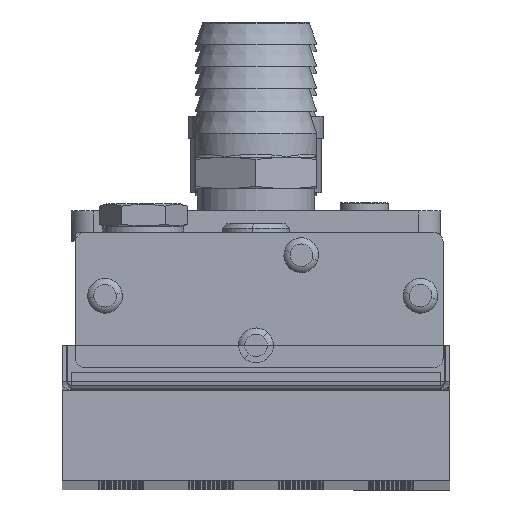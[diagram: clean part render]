
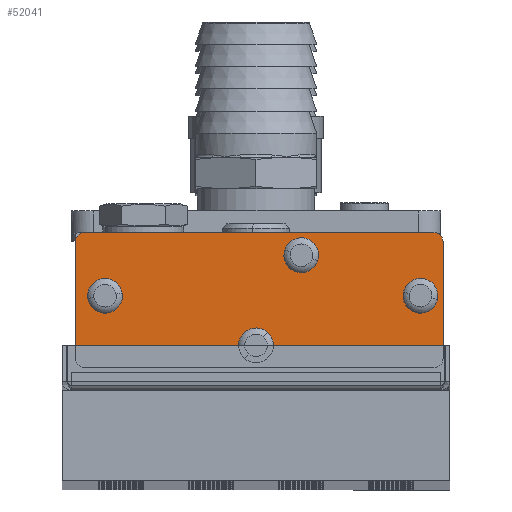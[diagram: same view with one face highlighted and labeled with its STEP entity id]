
A CAD part, top view. The second image highlights one B-rep face of the part: STEP entity #52041.
In plain terms, the highlighted planar face has unit normal (0, 0, 1).
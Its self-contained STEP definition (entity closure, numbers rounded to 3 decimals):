
#819 = AXIS2_PLACEMENT_3D ( 'NONE', #46645, #46647, #46649 ) ;
#1550 = EDGE_CURVE ( 'NONE', #4921, #4905, #29997, .T. ) ;
#1552 = EDGE_CURVE ( 'NONE', #4863, #5088, #30331, .T. ) ;
#1556 = EDGE_CURVE ( 'NONE', #4511, #4863, #30322, .T. ) ;
#1574 = EDGE_CURVE ( 'NONE', #5095, #4511, #30049, .T. ) ;
#1580 = EDGE_CURVE ( 'NONE', #4609, #5095, #30105, .T. ) ;
#1633 = EDGE_CURVE ( 'NONE', #4528, #4609, #30132, .T. ) ;
#1635 = EDGE_CURVE ( 'NONE', #4527, #4528, #30009, .T. ) ;
#1639 = EDGE_CURVE ( 'NONE', #5087, #4527, #30211, .T. ) ;
#1743 = EDGE_CURVE ( 'NONE', #4887, #4512, #46044, .T. ) ;
#1745 = EDGE_CURVE ( 'NONE', #4897, #4589, #46149, .T. ) ;
#2590 = AXIS2_PLACEMENT_3D ( 'NONE', #10534, #9691, #10472 ) ;
#2592 = AXIS2_PLACEMENT_3D ( 'NONE', #10456, #10396, #9739 ) ;
#2598 = AXIS2_PLACEMENT_3D ( 'NONE', #42432, #42431, #42429 ) ;
#2606 = AXIS2_PLACEMENT_3D ( 'NONE', #42380, #42354, #42379 ) ;
#2650 = AXIS2_PLACEMENT_3D ( 'NONE', #42524, #42641, #42699 ) ;
#2652 = AXIS2_PLACEMENT_3D ( 'NONE', #42536, #42630, #42596 ) ;
#4487 = ORIENTED_EDGE ( 'NONE', *, *, #1635, .T. ) ;
#4493 = ORIENTED_EDGE ( 'NONE', *, *, #1745, .T. ) ;
#4511 = VERTEX_POINT ( 'NONE', #44627 ) ;
#4512 = VERTEX_POINT ( 'NONE', #44626 ) ;
#4522 = ORIENTED_EDGE ( 'NONE', *, *, #51363, .T. ) ;
#4527 = VERTEX_POINT ( 'NONE', #44625 ) ;
#4528 = VERTEX_POINT ( 'NONE', #44629 ) ;
#4535 = ORIENTED_EDGE ( 'NONE', *, *, #1580, .T. ) ;
#4547 = ORIENTED_EDGE ( 'NONE', *, *, #1633, .T. ) ;
#4589 = VERTEX_POINT ( 'NONE', #44637 ) ;
#4593 = VERTEX_POINT ( 'NONE', #44669 ) ;
#4609 = VERTEX_POINT ( 'NONE', #44210 ) ;
#4706 = ORIENTED_EDGE ( 'NONE', *, *, #51343, .T. ) ;
#4795 = ORIENTED_EDGE ( 'NONE', *, *, #56759, .T. ) ;
#4799 = ORIENTED_EDGE ( 'NONE', *, *, #1639, .T. ) ;
#4803 = ORIENTED_EDGE ( 'NONE', *, *, #1556, .T. ) ;
#4852 = ORIENTED_EDGE ( 'NONE', *, *, #1552, .T. ) ;
#4855 = ORIENTED_EDGE ( 'NONE', *, *, #1574, .T. ) ;
#4863 = VERTEX_POINT ( 'NONE', #43779 ) ;
#4864 = ORIENTED_EDGE ( 'NONE', *, *, #22320, .T. ) ;
#4880 = ORIENTED_EDGE ( 'NONE', *, *, #51403, .T. ) ;
#4882 = ORIENTED_EDGE ( 'NONE', *, *, #1550, .T. ) ;
#4887 = VERTEX_POINT ( 'NONE', #44613 ) ;
#4897 = VERTEX_POINT ( 'NONE', #44467 ) ;
#4905 = VERTEX_POINT ( 'NONE', #44446 ) ;
#4908 = ORIENTED_EDGE ( 'NONE', *, *, #51383, .T. ) ;
#4914 = ORIENTED_EDGE ( 'NONE', *, *, #1743, .T. ) ;
#4921 = VERTEX_POINT ( 'NONE', #44109 ) ;
#4923 = VERTEX_POINT ( 'NONE', #44103 ) ;
#5087 = VERTEX_POINT ( 'NONE', #49289 ) ;
#5088 = VERTEX_POINT ( 'NONE', #49276 ) ;
#5095 = VERTEX_POINT ( 'NONE', #49273 ) ;
#6139 = AXIS2_PLACEMENT_3D ( 'NONE', #52985, #52986, #52987 ) ;
#6150 = AXIS2_PLACEMENT_3D ( 'NONE', #53060, #53061, #53062 ) ;
#6161 = AXIS2_PLACEMENT_3D ( 'NONE', #53113, #53114, #53115 ) ;
#6176 = AXIS2_PLACEMENT_3D ( 'NONE', #53170, #53171, #53172 ) ;
#6311 = AXIS2_PLACEMENT_3D ( 'NONE', #53500, #53501, #53502 ) ;
#8934 = CIRCLE ( 'NONE', #39143, 2. ) ;
#9691 = DIRECTION ( 'NONE',  ( 0., 0., -1. ) ) ;
#9739 = DIRECTION ( 'NONE',  ( -1., 0., 0. ) ) ;
#9916 = DIRECTION ( 'NONE',  ( 1., 0., 0. ) ) ;
#10027 = DIRECTION ( 'NONE',  ( 0., -1., 0. ) ) ;
#10396 = DIRECTION ( 'NONE',  ( 0., 0., 1. ) ) ;
#10441 = CARTESIAN_POINT ( 'NONE',  ( -40., 13., 601. ) ) ;
#10456 = CARTESIAN_POINT ( 'NONE',  ( -38., -13., 601. ) ) ;
#10472 = DIRECTION ( 'NONE',  ( -1., 0., 0. ) ) ;
#10534 = CARTESIAN_POINT ( 'NONE',  ( 10.05, 10., 601. ) ) ;
#10566 = CARTESIAN_POINT ( 'NONE',  ( -38., -15., 601. ) ) ;
#12822 = CARTESIAN_POINT ( 'NONE',  ( 39.5, -13., 601. ) ) ;
#12823 = DIRECTION ( 'NONE',  ( 0., 0., 1. ) ) ;
#12824 = DIRECTION ( 'NONE',  ( 1., 0., 0. ) ) ;
#22320 = EDGE_CURVE ( 'NONE', #4923, #4593, #32418, .T. ) ;
#24525 = EDGE_LOOP ( 'NONE', ( #4522, #4493 ) ) ;
#24624 = EDGE_LOOP ( 'NONE', ( #4706, #4914 ) ) ;
#25214 = EDGE_LOOP ( 'NONE', ( #4908, #4882 ) ) ;
#25264 = EDGE_LOOP ( 'NONE', ( #4535, #4855, #4803, #4852, #4795, #4799, #4487, #4547 ) ) ;
#25418 = EDGE_LOOP ( 'NONE', ( #4880, #4864 ) ) ;
#29379 = CIRCLE ( 'NONE', #6139, 3.857 ) ;
#29401 = CIRCLE ( 'NONE', #6150, 3.857 ) ;
#29490 = CIRCLE ( 'NONE', #6161, 3.857 ) ;
#29511 = CIRCLE ( 'NONE', #6176, 3.857 ) ;
#29997 = CIRCLE ( 'NONE', #2590, 3.857 ) ;
#30009 = CIRCLE ( 'NONE', #2606, 2. ) ;
#30049 = LINE ( 'NONE', #10441, #30177 ) ;
#30059 = VECTOR ( 'NONE', #42385, 1000. ) ;
#30063 = VECTOR ( 'NONE', #42387, 1000. ) ;
#30105 = CIRCLE ( 'NONE', #2598, 2. ) ;
#30132 = LINE ( 'NONE', #42368, #30063 ) ;
#30177 = VECTOR ( 'NONE', #10027, 1000. ) ;
#30211 = LINE ( 'NONE', #42353, #30059 ) ;
#30283 = FACE_BOUND ( 'NONE', #25214, .T. ) ;
#30287 = FACE_OUTER_BOUND ( 'NONE', #25264, .T. ) ;
#30290 = FACE_BOUND ( 'NONE', #24624, .T. ) ;
#30294 = FACE_BOUND ( 'NONE', #25418, .T. ) ;
#30298 = FACE_BOUND ( 'NONE', #24525, .T. ) ;
#30322 = CIRCLE ( 'NONE', #2592, 2. ) ;
#30331 = LINE ( 'NONE', #10566, #30345 ) ;
#30345 = VECTOR ( 'NONE', #9916, 1000. ) ;
#32418 = CIRCLE ( 'NONE', #819, 3.857 ) ;
#39143 = AXIS2_PLACEMENT_3D ( 'NONE', #12822, #12823, #12824 ) ;
#42353 = CARTESIAN_POINT ( 'NONE',  ( 41.5, 13., 601. ) ) ;
#42354 = DIRECTION ( 'NONE',  ( 0., 0., 1. ) ) ;
#42368 = CARTESIAN_POINT ( 'NONE',  ( -38., 15., 601. ) ) ;
#42379 = DIRECTION ( 'NONE',  ( 1., 0., 0. ) ) ;
#42380 = CARTESIAN_POINT ( 'NONE',  ( 39.5, 13., 601. ) ) ;
#42385 = DIRECTION ( 'NONE',  ( 0., 1., 0. ) ) ;
#42387 = DIRECTION ( 'NONE',  ( -1., 0., 0. ) ) ;
#42429 = DIRECTION ( 'NONE',  ( -1., 0., 0. ) ) ;
#42431 = DIRECTION ( 'NONE',  ( 0., 0., 1. ) ) ;
#42432 = CARTESIAN_POINT ( 'NONE',  ( -38., 13., 601. ) ) ;
#42524 = CARTESIAN_POINT ( 'NONE',  ( 0., -10., 601. ) ) ;
#42536 = CARTESIAN_POINT ( 'NONE',  ( -33.5, 1., 601. ) ) ;
#42596 = DIRECTION ( 'NONE',  ( -1., 0., 0. ) ) ;
#42630 = DIRECTION ( 'NONE',  ( 0., 0., -1. ) ) ;
#42641 = DIRECTION ( 'NONE',  ( 0., 0., -1. ) ) ;
#42699 = DIRECTION ( 'NONE',  ( -1., 0., 0. ) ) ;
#43779 = CARTESIAN_POINT ( 'NONE',  ( -38., -15., 601. ) ) ;
#44103 = CARTESIAN_POINT ( 'NONE',  ( 32.725, 1.79, 601. ) ) ;
#44109 = CARTESIAN_POINT ( 'NONE',  ( 6.366, 11.142, 601. ) ) ;
#44210 = CARTESIAN_POINT ( 'NONE',  ( -38., 15., 601. ) ) ;
#44446 = CARTESIAN_POINT ( 'NONE',  ( 13.734, 8.858, 601. ) ) ;
#44467 = CARTESIAN_POINT ( 'NONE',  ( -37.318, 0.456, 601. ) ) ;
#44613 = CARTESIAN_POINT ( 'NONE',  ( -2.572, -12.874, 601. ) ) ;
#44625 = CARTESIAN_POINT ( 'NONE',  ( 41.5, 13., 601. ) ) ;
#44626 = CARTESIAN_POINT ( 'NONE',  ( 2.572, -7.126, 601. ) ) ;
#44627 = CARTESIAN_POINT ( 'NONE',  ( -40., -13., 601. ) ) ;
#44629 = CARTESIAN_POINT ( 'NONE',  ( 39.5, 15., 601. ) ) ;
#44637 = CARTESIAN_POINT ( 'NONE',  ( -29.682, 1.544, 601. ) ) ;
#44669 = CARTESIAN_POINT ( 'NONE',  ( 40.275, 0.21, 601. ) ) ;
#46044 = CIRCLE ( 'NONE', #2650, 3.857 ) ;
#46149 = CIRCLE ( 'NONE', #2652, 3.857 ) ;
#46645 = CARTESIAN_POINT ( 'NONE',  ( 36.5, 1., 601. ) ) ;
#46647 = DIRECTION ( 'NONE',  ( 0., 0., -1. ) ) ;
#46649 = DIRECTION ( 'NONE',  ( -1., 0., 0. ) ) ;
#49273 = CARTESIAN_POINT ( 'NONE',  ( -40., 13., 601. ) ) ;
#49276 = CARTESIAN_POINT ( 'NONE',  ( 39.5, -15., 601. ) ) ;
#49289 = CARTESIAN_POINT ( 'NONE',  ( 41.5, -13., 601. ) ) ;
#51343 = EDGE_CURVE ( 'NONE', #4512, #4887, #29379, .T. ) ;
#51363 = EDGE_CURVE ( 'NONE', #4589, #4897, #29401, .T. ) ;
#51383 = EDGE_CURVE ( 'NONE', #4905, #4921, #29490, .T. ) ;
#51403 = EDGE_CURVE ( 'NONE', #4593, #4923, #29511, .T. ) ;
#52041 = ADVANCED_FACE ( 'NONE', ( #30294, #30283, #30298, #30290, #30287 ), #53481, .F. ) ;
#52985 = CARTESIAN_POINT ( 'NONE',  ( 0., -10., 601. ) ) ;
#52986 = DIRECTION ( 'NONE',  ( 0., 0., -1. ) ) ;
#52987 = DIRECTION ( 'NONE',  ( -1., 0., 0. ) ) ;
#53060 = CARTESIAN_POINT ( 'NONE',  ( -33.5, 1., 601. ) ) ;
#53061 = DIRECTION ( 'NONE',  ( 0., 0., -1. ) ) ;
#53062 = DIRECTION ( 'NONE',  ( -1., 0., 0. ) ) ;
#53113 = CARTESIAN_POINT ( 'NONE',  ( 10.05, 10., 601. ) ) ;
#53114 = DIRECTION ( 'NONE',  ( 0., 0., -1. ) ) ;
#53115 = DIRECTION ( 'NONE',  ( -1., 0., 0. ) ) ;
#53170 = CARTESIAN_POINT ( 'NONE',  ( 36.5, 1., 601. ) ) ;
#53171 = DIRECTION ( 'NONE',  ( 0., 0., -1. ) ) ;
#53172 = DIRECTION ( 'NONE',  ( -1., 0., 0. ) ) ;
#53481 = PLANE ( 'NONE',  #6311 ) ;
#53500 = CARTESIAN_POINT ( 'NONE',  ( -38., 13., 601. ) ) ;
#53501 = DIRECTION ( 'NONE',  ( 0., 0., -1. ) ) ;
#53502 = DIRECTION ( 'NONE',  ( -1., 0., 0. ) ) ;
#56759 = EDGE_CURVE ( 'NONE', #5088, #5087, #8934, .T. ) ;
